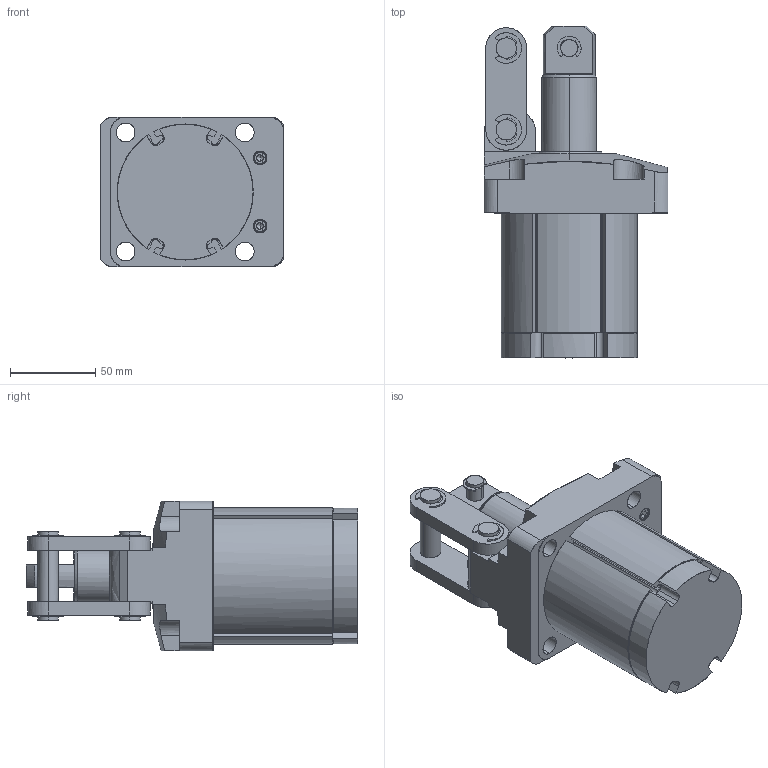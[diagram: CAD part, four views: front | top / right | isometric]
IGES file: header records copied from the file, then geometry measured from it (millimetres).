
Start section: Comment
Global section: file name: jss50-41.igs; native system:  By Spatial Corp.; preprocessor: XPlus GENERIC/IGES 3.0; author: Author; organization: Title; date: 20080526.132153; units: millimetre
Bounding box: 108 x 195 x 88 mm (x, y, z)
Surface area: 119097.7 mm2 (no closed solid volume)
Topology: 0 solids, 0 shells, 481 faces, 2574 edges, 2562 vertices
Faces by surface type: bspline 481
